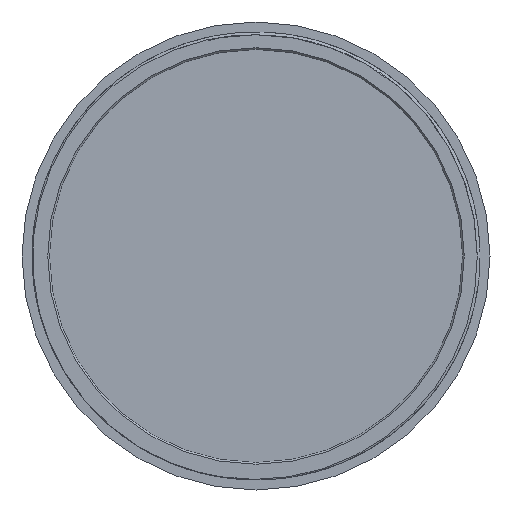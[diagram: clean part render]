
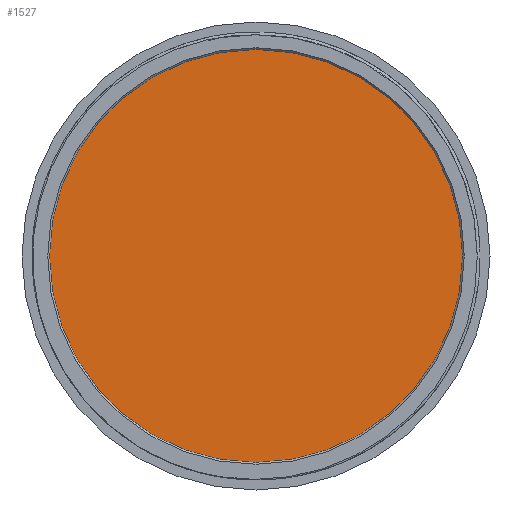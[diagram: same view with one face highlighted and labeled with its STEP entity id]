
A CAD part, front view. The second image highlights one B-rep face of the part: STEP entity #1527.
In plain terms, the highlighted planar face has unit normal (0, -1, 0).
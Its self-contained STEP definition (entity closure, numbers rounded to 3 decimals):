
#86 = CIRCLE ( 'NONE', #1728, 31.65 ) ;
#276 = VERTEX_POINT ( 'NONE', #890 ) ;
#290 = EDGE_CURVE ( 'NONE', #1131, #276, #2194, .T. ) ;
#654 = DIRECTION ( 'NONE',  ( 0., 1., 0. ) ) ;
#667 = DIRECTION ( 'NONE',  ( 0., 0., 1. ) ) ;
#743 = AXIS2_PLACEMENT_3D ( 'NONE', #1702, #1020, #1892 ) ;
#890 = CARTESIAN_POINT ( 'NONE',  ( 0., 2.5, 31.65 ) ) ;
#1020 = DIRECTION ( 'NONE',  ( 0., 1., 0. ) ) ;
#1097 = EDGE_CURVE ( 'NONE', #276, #1131, #86, .T. ) ;
#1131 = VERTEX_POINT ( 'NONE', #1455 ) ;
#1240 = ORIENTED_EDGE ( 'NONE', *, *, #290, .F. ) ;
#1300 = AXIS2_PLACEMENT_3D ( 'NONE', #2667, #654, #667 ) ;
#1455 = CARTESIAN_POINT ( 'NONE',  ( 0., 2.5, -31.65 ) ) ;
#1527 = ADVANCED_FACE ( 'NONE', ( #2556 ), #2830, .F. ) ;
#1625 = ORIENTED_EDGE ( 'NONE', *, *, #1097, .F. ) ;
#1702 = CARTESIAN_POINT ( 'NONE',  ( 0., 2.5, 0. ) ) ;
#1728 = AXIS2_PLACEMENT_3D ( 'NONE', #2777, #2047, #2750 ) ;
#1822 = EDGE_LOOP ( 'NONE', ( #1240, #1625 ) ) ;
#1892 = DIRECTION ( 'NONE',  ( 0., 0., 1. ) ) ;
#2047 = DIRECTION ( 'NONE',  ( 0., 1., 0. ) ) ;
#2194 = CIRCLE ( 'NONE', #1300, 31.65 ) ;
#2556 = FACE_OUTER_BOUND ( 'NONE', #1822, .T. ) ;
#2667 = CARTESIAN_POINT ( 'NONE',  ( 0., 2.5, 0. ) ) ;
#2750 = DIRECTION ( 'NONE',  ( 0., 0., 1. ) ) ;
#2777 = CARTESIAN_POINT ( 'NONE',  ( 0., 2.5, 0. ) ) ;
#2830 = PLANE ( 'NONE',  #743 ) ;
